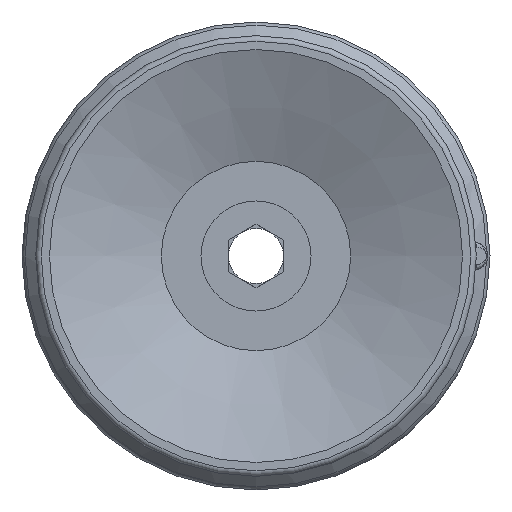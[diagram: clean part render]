
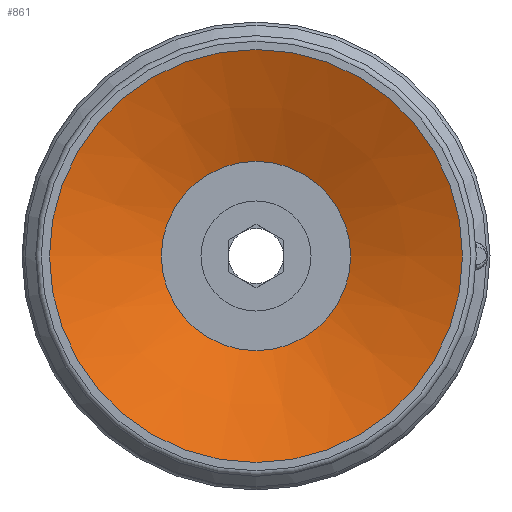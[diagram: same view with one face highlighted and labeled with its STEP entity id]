
A CAD part, front view. The second image highlights one B-rep face of the part: STEP entity #861.
In plain terms, the highlighted conical face has half-angle 67.5 degrees and reference radius 3.437 mm.
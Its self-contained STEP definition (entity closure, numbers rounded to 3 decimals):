
#861=ADVANCED_FACE('',(#1234,#1235),#1236,.F.);
#1234=FACE_BOUND('',#2649,.T.);
#1235=FACE_OUTER_BOUND('',#2650,.T.);
#1236=CONICAL_SURFACE('',#2651,3.437,1.178);
#2649=EDGE_LOOP('',(#3586));
#2650=EDGE_LOOP('',(#3587));
#2651=AXIS2_PLACEMENT_3D('',#3588,#3589,#3590);
#3586=ORIENTED_EDGE('',*,*,#3922,.F.);
#3587=ORIENTED_EDGE('',*,*,#3923,.T.);
#3588=CARTESIAN_POINT('',(0.0,0.0,1.683));
#3589=DIRECTION('',(0.0,0.,-1.0));
#3590=DIRECTION('',(0.0,1.0,0.));
#3922=EDGE_CURVE('',#4358,#4358,#4359,.T.);
#3923=EDGE_CURVE('',#4360,#4360,#4361,.T.);
#4358=VERTEX_POINT('',#5253);
#4359=CIRCLE('',#5254,3.437);
#4360=VERTEX_POINT('',#5255);
#4361=CIRCLE('',#5256,7.5);
#5253=CARTESIAN_POINT('',(-3.437,0.0,1.683));
#5254=AXIS2_PLACEMENT_3D('',#5666,#5667,#5668);
#5255=CARTESIAN_POINT('',(-7.5,0.0,0.));
#5256=AXIS2_PLACEMENT_3D('',#5669,#5670,#5671);
#5666=CARTESIAN_POINT('',(0.0,0.0,1.683));
#5667=DIRECTION('',(0.0,0.,-1.0));
#5668=DIRECTION('',(0.0,1.0,0.));
#5669=CARTESIAN_POINT('',(0.0,0.0,0.));
#5670=DIRECTION('',(0.0,0.,-1.0));
#5671=DIRECTION('',(0.0,1.0,0.));
